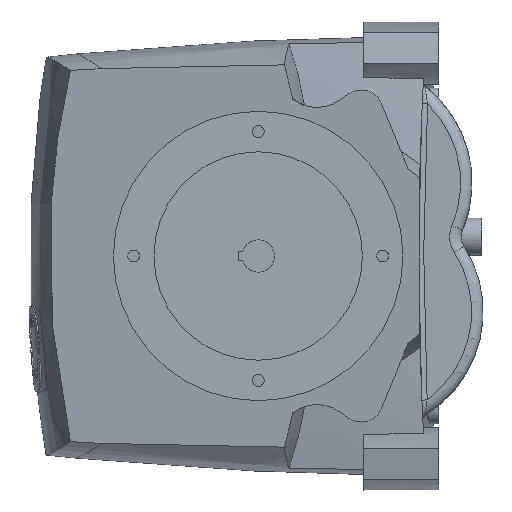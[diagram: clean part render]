
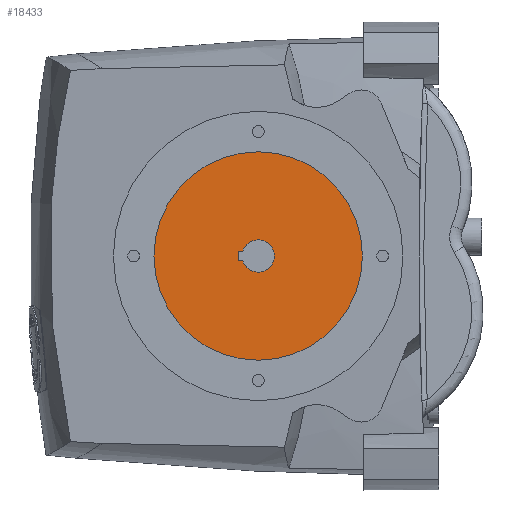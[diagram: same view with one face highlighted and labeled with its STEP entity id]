
A CAD part, left-side view. The second image highlights one B-rep face of the part: STEP entity #18433.
In plain terms, the highlighted planar face has unit normal (-1, 0, 0).
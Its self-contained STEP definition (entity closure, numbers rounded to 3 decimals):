
#6524=CARTESIAN_POINT('',(-444.1,71.934,186.364));
#6525=DIRECTION('',(-1.,0.,0.));
#6526=DIRECTION('',(0.,1.,0.));
#6527=AXIS2_PLACEMENT_3D('',#6524,#6525,#6526);
#6537=CARTESIAN_POINT('',(-444.1,71.934,186.364));
#6538=DIRECTION('',(1.,0.,0.));
#6539=DIRECTION('',(0.,1.,0.));
#6540=AXIS2_PLACEMENT_3D('',#6537,#6538,#6539);
#6542=DIRECTION('',(0.,1.,0.));
#6543=VECTOR('',#6542,3.884);
#6544=CARTESIAN_POINT('',(-444.1,85.35,190.364));
#6545=LINE('',#6544,#6543);
#6546=DIRECTION('',(0.,0.,-1.));
#6547=VECTOR('',#6546,8.);
#6548=CARTESIAN_POINT('',(-444.1,89.234,190.364));
#6549=LINE('',#6548,#6547);
#6550=DIRECTION('',(0.,-1.,0.));
#6551=VECTOR('',#6550,3.884);
#6552=CARTESIAN_POINT('',(-444.1,89.234,182.364));
#6553=LINE('',#6552,#6551);
#6554=CARTESIAN_POINT('',(-444.1,71.934,186.364));
#6555=DIRECTION('',(-1.,0.,0.));
#6556=DIRECTION('',(0.,0.958,-0.286));
#6557=AXIS2_PLACEMENT_3D('',#6554,#6555,#6556);
#7775=CARTESIAN_POINT('',(-444.1,161.934,186.364));
#7777=VERTEX_POINT('',#7775);
#7783=CARTESIAN_POINT('',(-444.1,-18.066,
186.364));
#7785=VERTEX_POINT('',#7783);
#7799=CARTESIAN_POINT('',(-444.1,85.35,190.364));
#7800=CARTESIAN_POINT('',(-444.1,89.234,190.364));
#7801=VERTEX_POINT('',#7799);
#7802=VERTEX_POINT('',#7800);
#7803=CARTESIAN_POINT('',(-444.1,89.234,182.364));
#7804=VERTEX_POINT('',#7803);
#7805=CARTESIAN_POINT('',(-444.1,85.35,182.364));
#7806=VERTEX_POINT('',#7805);
#18414=CARTESIAN_POINT('',(-444.1,71.934,
186.364));
#18415=DIRECTION('',(-1.,0.,0.));
#18416=DIRECTION('',(0.,-1.,0.));
#18417=AXIS2_PLACEMENT_3D('',#18414,#18415,#18416);
#18418=PLANE('',#18417);
#18419=ORIENTED_EDGE('',*,*,#18409,.T.);
#18420=ORIENTED_EDGE('',*,*,#18393,.F.);
#18421=EDGE_LOOP('',(#18419,#18420));
#18422=FACE_OUTER_BOUND('',#18421,.F.);
#18424=ORIENTED_EDGE('',*,*,#18423,.T.);
#18426=ORIENTED_EDGE('',*,*,#18425,.T.);
#18428=ORIENTED_EDGE('',*,*,#18427,.T.);
#18430=ORIENTED_EDGE('',*,*,#18429,.T.);
#18431=EDGE_LOOP('',(#18424,#18426,#18428,#18430));
#18432=FACE_BOUND('',#18431,.F.);
#18433=ADVANCED_FACE('',(#18422,#18432),#18418,.T.);
#6528=CIRCLE('',#6527,90.);
#6541=CIRCLE('',#6540,90.);
#6558=CIRCLE('',#6557,14.);
#18393=EDGE_CURVE('',#7777,#7785,#6528,.T.);
#18409=EDGE_CURVE('',#7777,#7785,#6541,.T.);
#18423=EDGE_CURVE('',#7801,#7802,#6545,.T.);
#18425=EDGE_CURVE('',#7802,#7804,#6549,.T.);
#18427=EDGE_CURVE('',#7804,#7806,#6553,.T.);
#18429=EDGE_CURVE('',#7806,#7801,#6558,.T.);
